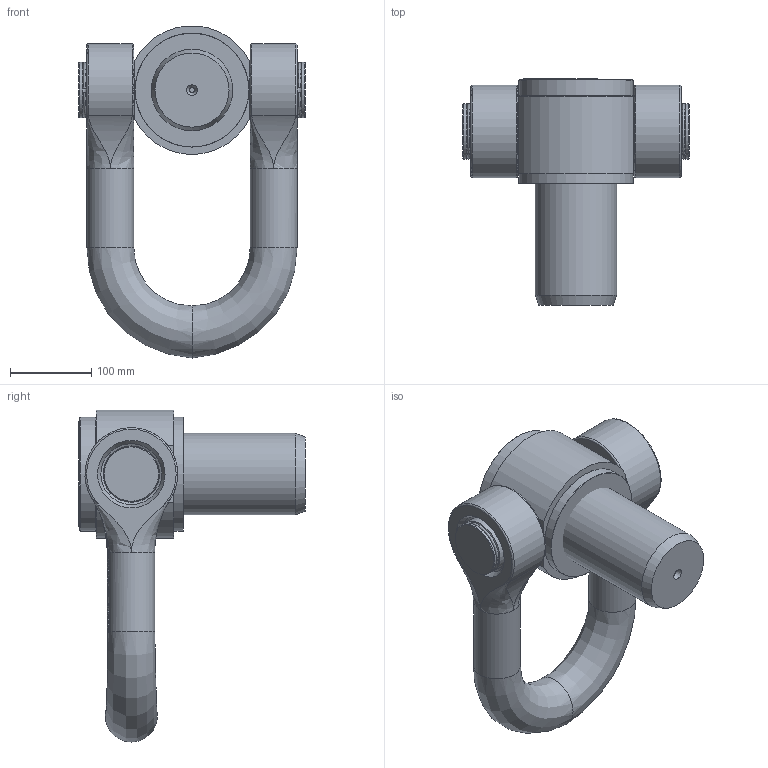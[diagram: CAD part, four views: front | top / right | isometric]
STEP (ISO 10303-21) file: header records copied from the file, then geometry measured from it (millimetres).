
FILE_DESCRIPTION(/* description */ (''),/* implementation_level */ '2;1');
FILE_NAME(/* name */ 'W:\CODIPRO\DOCUMENTS\Plans A NE PAS DIFFUSER !!!\Fichiers STEP (3D)\Gamme 2018\Produits GRADUP\MEGA DSS + UP\MEGA DSS + M100 UP.stp',/* time_stamp */ '2023-05-30T13:01:38+02:00',/* author */ ('mmagerotte'),/* organization */ (''),/* preprocessor_version */ 'ST-DEVELOPER v17',/* originating_system */ 'Autodesk Inventor 2019',/* authorisation */ '');
FILE_SCHEMA (('AUTOMOTIVE_DESIGN { 1 0 10303 214 3 1 1 }'));
Length unit declared in the file: millimetre
Products named in the file (7): MEGA DSS +  M100 UP; DSS_N5X110; DSM_N5X110; DSM_N5; DIN 7993 - A 65; DSA_M100X257_UP+; DSE_M100A
Assembly tree (7 placements, depth 3):
  MEGA DSS +  M100 UP
    DSS_N5X110
      DSM_N5X110
      DSM_N5
      DIN 7993 - A 65  x2
    DSA_M100X257_UP+
    DSE_M100A
Bounding box: 278 x 278 x 407.71 mm (x, y, z)
Volume: 6386842.6 mm3; surface area: 507700 mm2
Topology: 6 solids, 6 shells, 815 faces, 2249 edges, 1496 vertices
Faces by surface type: plane 396, bspline 299, cylinder 79, cone 27, torus 14
Full cylindrical faces by diameter (mm): 6.3 x1, 57.5 x2, 68 x4, 69.2 x2, 92 x1, 93.505 x1, 100 x1, 100.2 x1, 110 x4, 140 x2
Entity records: 32287 total; most frequent: CARTESIAN_POINT 13329, ORIENTED_EDGE 4486, DIRECTION 2801, EDGE_CURVE 2243, VERTEX_POINT 1492, LINE 1169, VECTOR 1169, EDGE_LOOP 871
